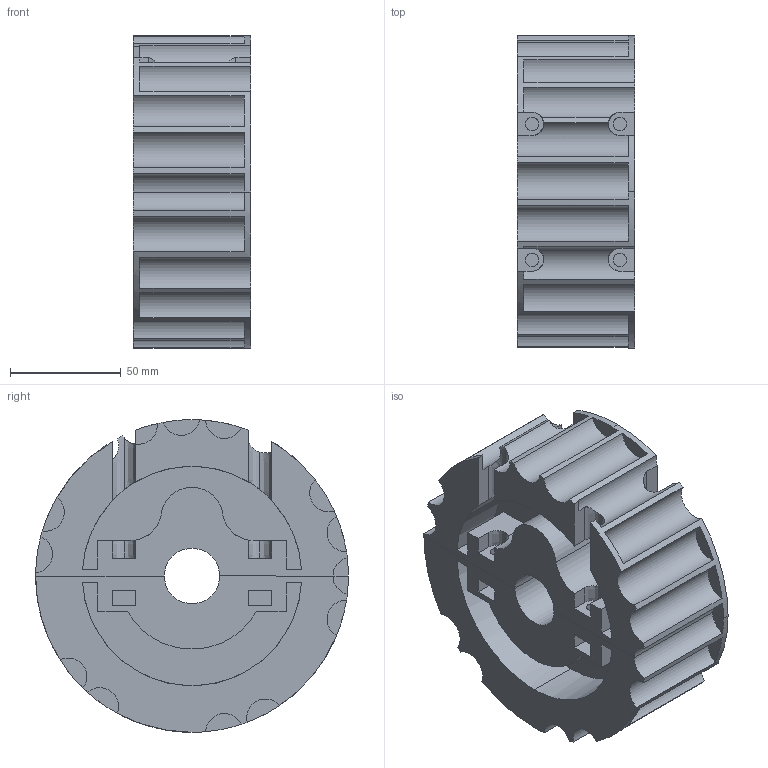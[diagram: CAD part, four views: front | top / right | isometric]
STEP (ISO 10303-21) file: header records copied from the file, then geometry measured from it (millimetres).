
FILE_DESCRIPTION(('CATIA V5 STEP Exchange','CAx-IF Rec.Pracs.--- Model Styling and Organization---1.4--- 2014-01-23'),'2;1');
FILE_NAME('C:\Users\Admin\Desktop\BUTUN-PARCALAR\alhan\312\314KI2123A.stp','2022-03-23T20:02:04+00:00',('none'),('none'),'CATIA Version 5-6 Release 2017','CATIA V5 STEP AP214','none');
FILE_SCHEMA(('AUTOMOTIVE_DESIGN { 1 0 10303 214 1 1 1 1 }'));
Length unit declared in the file: millimetre
Products named in the file (1): 314KI2123A
Bounding box: 53 x 141 x 141 mm (x, y, z)
Volume: 524188.7 mm3; surface area: 106358.6 mm2
Topology: 2 solids, 2 shells, 184 faces, 530 edges, 356 vertices
Faces by surface type: plane 103, cylinder 65, extrusion 16
Entity records: 5698 total; most frequent: CARTESIAN_POINT 1311, ORIENTED_EDGE 1060, DIRECTION 626, EDGE_CURVE 530, VERTEX_POINT 356, VECTOR 316, LINE 300, AXIS2_PLACEMENT_3D 253
